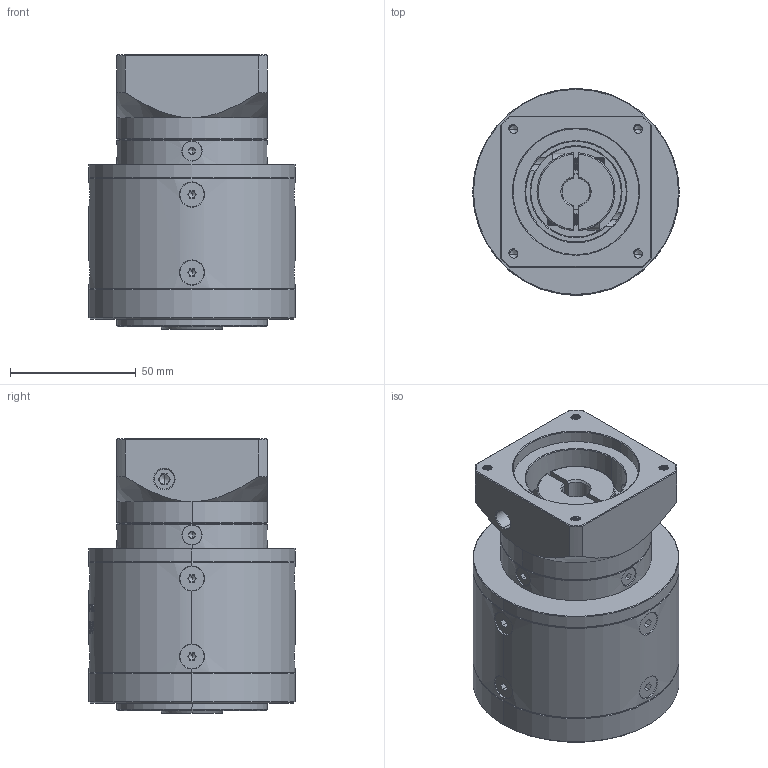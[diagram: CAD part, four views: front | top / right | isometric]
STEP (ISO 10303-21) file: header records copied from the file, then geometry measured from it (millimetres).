
FILE_DESCRIPTION (( 'STEP AP214' ), '1' );
FILE_NAME ('ZE80-K15-L2-11-50-70-M4.step', '2022-05-08T06:06:02', ( '' ), ( 'Microsoft' ), 'SwSTEP 2.0', 'SolidWorks 2016', '' );
FILE_SCHEMA (( 'AUTOMOTIVE_DESIGN' ));
Length unit declared in the file: millimetre
Products named in the file (1): ZE80-K15-L2-11-50-70-M4
Bounding box: 82 x 82 x 109 mm (x, y, z)
Volume: 426630.2 mm3; surface area: 62687 mm2
Topology: 18 solids, 18 shells, 2045 faces, 5380 edges, 3425 vertices
Faces by surface type: plane 936, cylinder 458, bspline 330, cone 307, torus 14
Entity records: 110132 total; most frequent: CARTESIAN_POINT 41079, ORIENTED_EDGE 10672, DIRECTION 8350, EDGE_CURVE 5336, VERTEX_POINT 3425, VECTOR 2862, LINE 2862, AXIS2_PLACEMENT_3D 2744
